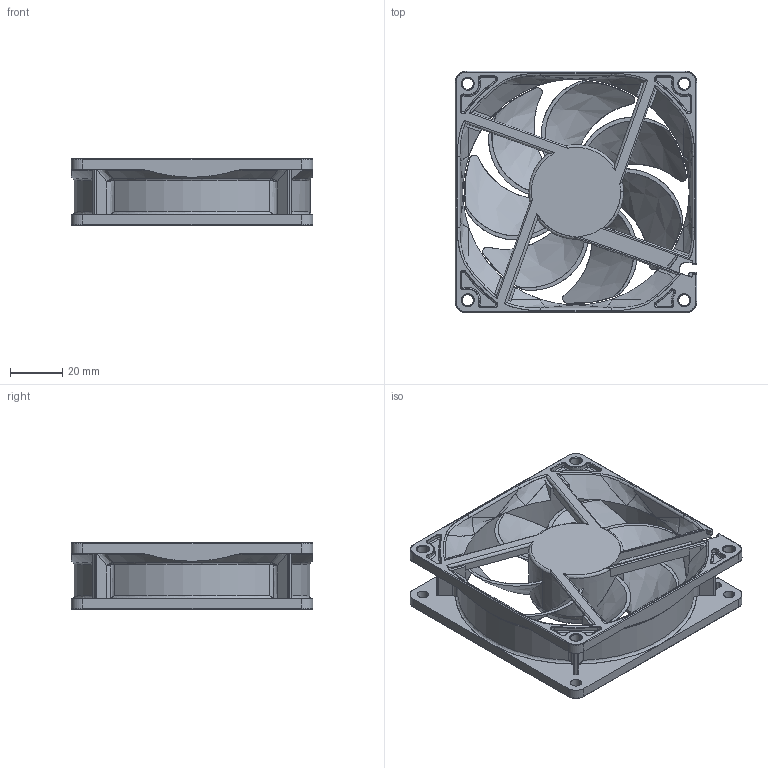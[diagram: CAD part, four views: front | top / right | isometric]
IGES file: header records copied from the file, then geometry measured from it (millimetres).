
Start section: SolidWorks IGES file using analytic representation for surfaces
Global section: file name: E:\提出用3D\92x25LG\RIBRESS\92x25LG RIBRESS.IGS,15; native system: HSolidWorks 2017; preprocessor: SolidWorks 2017; author: Inada-Naoya; date: 170619.150510; units: millimetre
Bounding box: 92 x 92 x 25.2 mm (x, y, z)
Surface area: 41511.3 mm2 (no closed solid volume)
Topology: 0 solids, 0 shells, 613 faces, 5924 edges, 5919 vertices
Faces by surface type: bspline 376, revolution 237
